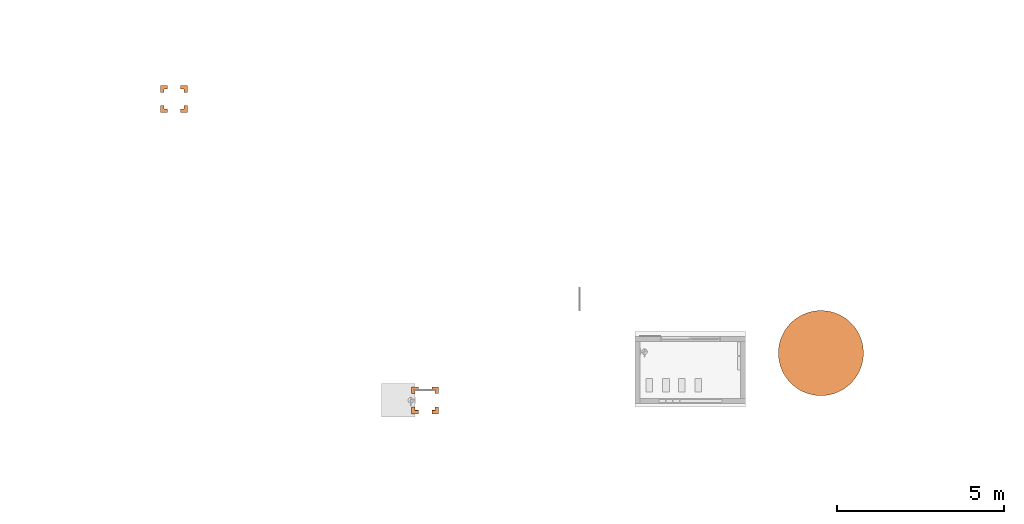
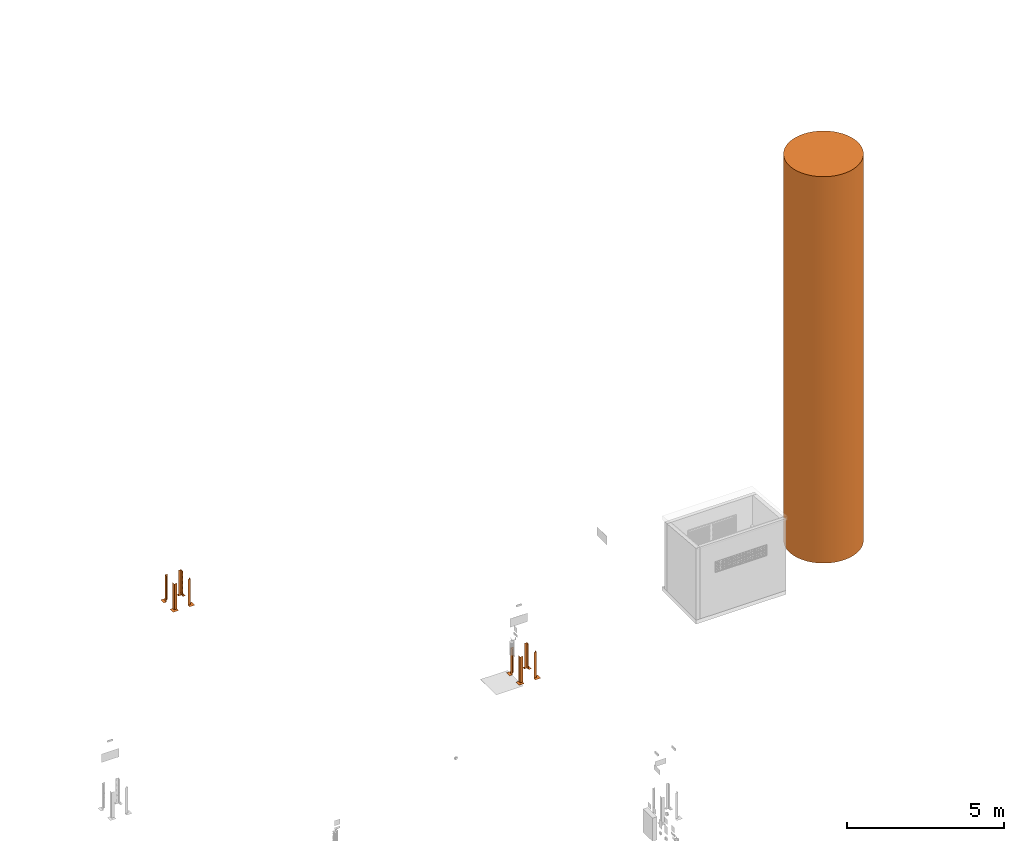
# One storey, part 23 of 119: 9 proxies.
"""IFC2X3 building model written with IfcOpenShell, lengths in metres."""

import ifcopenshell
import ifcopenshell.guid

model = None  # the IFC model being written
_history = None  # IfcOwnerHistory: only IFC2X3 demands one
_inside = {}  # id of a spatial element -> (the spatial element, [elements in it])
_under = {}  # id of a project, library or spatial element -> (it, [spatial elements below it])
_declared = {}  # id of a project -> (the project, [libraries it declares])
_typed = {}  # id of a type object -> (the type object, [elements of that type])
_made_of = {}  # id of a material, layer set ... -> (it, [elements and type objects made of it])


def new_model(schema):
    """Start an empty IFC model of exactly this schema.

    Asked for "IFC4X3", IfcOpenShell would pick the latest addendum, in which some entities
    have other attributes; the version numbers below select the first issue.
    IFC2X3 requires an IfcOwnerHistory on every rooted entity: one is made here for all.
    """
    global model, _history
    if schema == "IFC4X3":
        model = ifcopenshell.file(schema_version=(4, 3, 0, 0))
    else:
        model = ifcopenshell.file(schema=schema)
    _inside.clear()
    _under.clear()
    _declared.clear()
    _typed.clear()
    _made_of.clear()
    _history = None
    if model.schema == "IFC2X3":
        org = make("IfcOrganization", Name="unknown")
        user = make(
            "IfcPersonAndOrganization",
            ThePerson=make("IfcPerson", FamilyName="unknown"),
            TheOrganization=org,
        )
        app = make(
            "IfcApplication",
            ApplicationDeveloper=org,
            Version="unknown",
            ApplicationFullName="unknown",
            ApplicationIdentifier="unknown",
        )
        _history = make(
            "IfcOwnerHistory",
            OwningUser=user,
            OwningApplication=app,
            ChangeAction="ADDED",
            CreationDate=0,
        )
    return model


def make(cls, **values):
    """One entity of the class cls with the attributes given. An attribute that is None is left unset."""
    return model.create_entity(
        cls, **{name: value for name, value in values.items() if value is not None}
    )


def entity(cls, *values):
    """Any entity or typed value of the class cls, its attributes in the order of the schema. None: left unset."""
    e = model.create_entity(cls)
    for i, value in enumerate(values):
        if value is not None:
            e[i] = value
    return e


def rooted(cls, **values):
    """An entity with a GlobalId (a new one), such as an element, a storey or a relation."""
    return make(cls, GlobalId=ifcopenshell.guid.new(), OwnerHistory=_history, **values)


def si_unit(unit_type, name, prefix=None):
    """IfcSIUnit, for example si_unit("LENGTHUNIT", "METRE", prefix="MILLI")."""
    return make("IfcSIUnit", UnitType=unit_type, Prefix=prefix, Name=name)


def converted_unit(unit_type, name, factor, base, dimensions=None, offset=None):
    """IfcConversionBasedUnit, such as the inch: factor (a typed value) times the base unit."""
    return make(
        "IfcConversionBasedUnit"
        if offset is None
        else "IfcConversionBasedUnitWithOffset",
        ConversionOffset=offset,
        Dimensions=None
        if dimensions is None
        else entity("IfcDimensionalExponents", *dimensions),
        UnitType=unit_type,
        Name=name,
        ConversionFactor=make(
            "IfcMeasureWithUnit", ValueComponent=factor, UnitComponent=base
        ),
    )


def derived_unit(unit_type, elements):
    """IfcDerivedUnit: a product of units, each with its exponent."""
    return make(
        "IfcDerivedUnit",
        Elements=[
            make("IfcDerivedUnitElement", Unit=unit, Exponent=power)
            for unit, power in elements
        ],
        UnitType=unit_type,
    )


def assignment(units):
    """IfcUnitAssignment: the units of a project."""
    return None if units is None else make("IfcUnitAssignment", Units=units)


def point(xyz):
    """IfcCartesianPoint."""
    return None if xyz is None else make("IfcCartesianPoint", Coordinates=xyz)


def direction(xyz):
    """IfcDirection."""
    return None if xyz is None else make("IfcDirection", DirectionRatios=xyz)


def frame(location, z_axis=None, x_axis=None):
    """IfcAxis2Placement3D, a coordinate frame: its origin and axes. An axis left out is left unset."""
    return make(
        "IfcAxis2Placement3D",
        Location=point(location),
        Axis=direction(z_axis),
        RefDirection=direction(x_axis),
    )


def frame_2d(location, x_axis=None):
    """IfcAxis2Placement2D, a coordinate frame in the plane: its origin and x axis."""
    return make(
        "IfcAxis2Placement2D", Location=point(location), RefDirection=direction(x_axis)
    )


def origin():
    """The frame at (0, 0, 0) with its axes left unset."""
    return frame((0.0, 0.0, 0.0))


def place(relative_to, where):
    """IfcLocalPlacement: puts the frame where relative to a parent placement (None: the world)."""
    return make(
        "IfcLocalPlacement", PlacementRelTo=relative_to, RelativePlacement=where
    )


def context(
    kind, dimensions, precision=None, world=None, true_north=None, identifier=None
):
    """IfcGeometricRepresentationContext, for example the 3D "Model" context."""
    return make(
        "IfcGeometricRepresentationContext",
        ContextIdentifier=identifier,
        ContextType=kind,
        CoordinateSpaceDimension=dimensions,
        Precision=precision,
        WorldCoordinateSystem=world,
        TrueNorth=true_north,
    )


def subcontext(parent, identifier, kind, view, scale=None):
    """IfcGeometricRepresentationSubContext, for example "Body" below "Model"."""
    return make(
        "IfcGeometricRepresentationSubContext",
        ContextIdentifier=identifier,
        ContextType=kind,
        ParentContext=parent,
        TargetScale=scale,
        TargetView=view,
    )


def project(units=None, contexts=None):
    """IfcProject with its units and contexts."""
    return rooted(
        "IfcProject",
        Name="project",
        RepresentationContexts=contexts,
        UnitsInContext=assignment(units),
    )


def spatial(cls, under=None, at=None, **own):
    """A site, building, storey or space (cls), placed at a placement, below another one or the project."""
    s = rooted(cls, ObjectPlacement=at, **own)
    if under is not None:
        _under.setdefault(under.id(), (under, []))[1].append(s)
    return s


def profile(cls, at=None, kind="AREA", **sizes):
    """A parametric profile (cls). Its sizes go by their IFC names, for example OverallWidth=200.0."""
    return make(cls, ProfileType=kind, Position=at, **sizes)


def circle(**sizes):
    """IfcCircleProfileDef."""
    return profile("IfcCircleProfileDef", **sizes)


def extrude(swept, where, along, depth):
    """IfcExtrudedAreaSolid: the profile swept, set in the frame where, extruded along a direction by depth."""
    return make(
        "IfcExtrudedAreaSolid",
        SweptArea=swept,
        Position=where,
        ExtrudedDirection=direction(along),
        Depth=depth,
    )


def faces_of(points, faces, orient=None, outer=None):
    """IfcFace entities. A face is a list of loops; a loop is a list of indices into points, from 0.

    orient and outer hold one flag for each loop. By default every Orientation is true, the
    first loop of a face is its IfcFaceOuterBound and the others are IfcFaceBound.
    """
    made = []
    for i, loops in enumerate(faces):
        bounds = []
        for j, loop in enumerate(loops):
            is_outer = j == 0 if outer is None else outer[i][j]
            bounds.append(
                make(
                    "IfcFaceOuterBound" if is_outer else "IfcFaceBound",
                    Bound=make("IfcPolyLoop", Polygon=[points[k] for k in loop]),
                    Orientation=True if orient is None else orient[i][j],
                )
            )
        made.append(make("IfcFace", Bounds=bounds))
    return made


def faceted_brep(points, faces, orient=None, outer=None, voids=None):
    """IfcFacetedBrep: a solid bounded by flat faces; with voids (closed shells), ...WithVoids."""
    shared = [point(p) for p in points]
    hull = make("IfcClosedShell", CfsFaces=faces_of(shared, faces, orient, outer))
    if voids is None:
        return make("IfcFacetedBrep", Outer=hull)
    return make(
        "IfcFacetedBrepWithVoids",
        Outer=hull,
        Voids=[
            make(cls, CfsFaces=faces_of(shared, fs, o, b)) for cls, fs, o, b in voids
        ],
    )


def shape(context_of_items, identifier, shape_type, items):
    """IfcShapeRepresentation: the items that make up one representation, for example the "Body"."""
    return make(
        "IfcShapeRepresentation",
        ContextOfItems=context_of_items,
        RepresentationIdentifier=identifier,
        RepresentationType=shape_type,
        Items=items,
    )


def source(mapping_origin, context_of_items, identifier, shape_type, items):
    """IfcRepresentationMap: a shape defined once, which mapped items show again and again."""
    return make(
        "IfcRepresentationMap",
        MappingOrigin=mapping_origin,
        MappedRepresentation=shape(context_of_items, identifier, shape_type, items),
    )


def transform(
    local_origin,
    x_axis=None,
    y_axis=None,
    z_axis=None,
    scale=None,
    scale2=None,
    scale3=None,
    uniform=True,
):
    """IfcCartesianTransformationOperator3D, or its non-uniform kind. x_axis, y_axis, z_axis: its Axis1, 2, 3."""
    if uniform:
        return make(
            "IfcCartesianTransformationOperator3D",
            Axis1=direction(x_axis),
            Axis2=direction(y_axis),
            LocalOrigin=point(local_origin),
            Scale=scale,
            Axis3=direction(z_axis),
        )
    return make(
        "IfcCartesianTransformationOperator3DnonUniform",
        Axis1=direction(x_axis),
        Axis2=direction(y_axis),
        LocalOrigin=point(local_origin),
        Scale=scale,
        Axis3=direction(z_axis),
        Scale2=scale2,
        Scale3=scale3,
    )


def mapped(mapping_source, mapping_target):
    """IfcMappedItem: shows the shape of a source again, moved by a transform."""
    return make(
        "IfcMappedItem", MappingSource=mapping_source, MappingTarget=mapping_target
    )


def material(Name=None, Category=None):
    """IfcMaterial."""
    return make("IfcMaterial", Name=Name, Category=Category)


def material_list(materials):
    """IfcMaterialList."""
    return make("IfcMaterialList", Materials=materials)


def made_of(thing, what):
    """Note that an element or type object is made of a material, layer set ...; save() writes the relation."""
    if what is not None:
        _made_of.setdefault(what.id(), (what, []))[1].append(thing)
    return thing


def type_object(cls, material=None, **own):
    """A type object (cls), such as IfcWallType, which elements share."""
    return made_of(rooted(cls, **own), material)


def type_shapes(of_type, sources):
    """Give a type object the sources (RepresentationMaps) that its elements show as mapped items."""
    of_type.RepresentationMaps = sources


def element(
    cls,
    number,
    at=None,
    inside=None,
    cuts=None,
    type_object=None,
    material=None,
    context=None,
    identifier="Body",
    shape_type=None,
    held_by="IfcProductDefinitionShape",
    body=None,
    shapes=None,
    **own,
):
    """One element of the class cls, such as IfcWall. Its Tag is "e" and its number.

    at: its placement. inside: the storey or other place that contains it. cuts: it is an
    opening in that element (IfcRelVoidsElement). A single representation is given by context,
    identifier, shape_type and body (its items); several are given by shapes. held_by: the class
    of the entity that holds the representations. save() writes the other relations.
    """
    e = rooted(cls, Tag="e%d" % number, ObjectPlacement=at, **own)
    if body is not None:
        shapes = [shape(context, identifier, shape_type, body)]
    if shapes is not None:
        e.Representation = make(held_by, Representations=shapes)
    if inside is not None:
        _inside.setdefault(inside.id(), (inside, []))[1].append(e)
    if cuts is not None:
        rooted(
            "IfcRelVoidsElement", RelatingBuildingElement=cuts, RelatedOpeningElement=e
        )
    if type_object is not None:
        _typed.setdefault(type_object.id(), (type_object, []))[1].append(e)
    return made_of(e, material)


def aggregate(whole, parts):
    """IfcRelAggregates: a whole, such as a stair, and the parts it consists of."""
    return rooted("IfcRelAggregates", RelatingObject=whole, RelatedObjects=parts)


def save(model, path):
    """Write the relations noted so far, then the file.

    IfcRelAggregates (storeys below a building ...), IfcRelContainedInSpatialStructure (elements
    in a storey), IfcRelDefinesByType, IfcRelAssociatesMaterial and IfcRelDeclares: one each for
    every whole, place, type object, material and project.
    """
    for whole, parts in _under.values():
        aggregate(whole, parts)
    for where, things in _inside.values():
        rooted(
            "IfcRelContainedInSpatialStructure",
            RelatedElements=things,
            RelatingStructure=where,
        )
    for kind, things in _typed.values():
        rooted("IfcRelDefinesByType", RelatedObjects=things, RelatingType=kind)
    for what, things in _made_of.values():
        rooted("IfcRelAssociatesMaterial", RelatedObjects=things, RelatingMaterial=what)
    for by, libraries in _declared.values():
        rooted("IfcRelDeclares", RelatingContext=by, RelatedDefinitions=libraries)
    model.write(path)


model = new_model("IFC2X3")

# Units and contexts
model_context = context("Model", 3, precision=1e-05, world=origin(), true_north=direction((6.12303176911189e-17, 1.0)))
body_context = subcontext(model_context, "Body", "Model", "MODEL_VIEW")
ifc_project = project(units=[si_unit("LENGTHUNIT", "METRE"), si_unit("AREAUNIT", "SQUARE_METRE"), si_unit("VOLUMEUNIT", "CUBIC_METRE"), converted_unit("PLANEANGLEUNIT", "DEGREE", entity("IfcRatioMeasure", 0.0174532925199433), si_unit("PLANEANGLEUNIT", "RADIAN"), dimensions=[0, 0, 0, 0, 0, 0, 0]), si_unit("MASSUNIT", "GRAM", prefix="KILO"), derived_unit("MASSDENSITYUNIT", [(si_unit("MASSUNIT", "GRAM", prefix="KILO"), 1), (si_unit("LENGTHUNIT", "METRE"), -3)]), derived_unit("MOMENTOFINERTIAUNIT", [(si_unit("LENGTHUNIT", "METRE"), 4)]), si_unit("TIMEUNIT", "SECOND"), si_unit("FREQUENCYUNIT", "HERTZ"), si_unit("THERMODYNAMICTEMPERATUREUNIT", "DEGREE_CELSIUS"), derived_unit("THERMALTRANSMITTANCEUNIT", [(si_unit("MASSUNIT", "GRAM", prefix="KILO"), 1), (si_unit("THERMODYNAMICTEMPERATUREUNIT", "KELVIN"), -1), (si_unit("TIMEUNIT", "SECOND"), -3)]), derived_unit("VOLUMETRICFLOWRATEUNIT", [(si_unit("LENGTHUNIT", "METRE"), 3), (si_unit("TIMEUNIT", "SECOND"), -1)]), si_unit("ELECTRICCURRENTUNIT", "AMPERE"), si_unit("ELECTRICVOLTAGEUNIT", "VOLT"), si_unit("POWERUNIT", "WATT"), si_unit("FORCEUNIT", "NEWTON", prefix="KILO"), si_unit("ILLUMINANCEUNIT", "LUX"), si_unit("LUMINOUSFLUXUNIT", "LUMEN"), si_unit("LUMINOUSINTENSITYUNIT", "CANDELA"), derived_unit("USERDEFINED", [(si_unit("MASSUNIT", "GRAM", prefix="KILO"), -1), (si_unit("LENGTHUNIT", "METRE"), -2), (si_unit("TIMEUNIT", "SECOND"), 3), (si_unit("LUMINOUSFLUXUNIT", "LUMEN"), 1)]), derived_unit("LINEARVELOCITYUNIT", [(si_unit("LENGTHUNIT", "METRE"), 1), (si_unit("TIMEUNIT", "SECOND"), -1)]), si_unit("PRESSUREUNIT", "PASCAL"), derived_unit("USERDEFINED", [(si_unit("LENGTHUNIT", "METRE"), -2), (si_unit("MASSUNIT", "GRAM", prefix="KILO"), 1), (si_unit("TIMEUNIT", "SECOND"), -2)]), derived_unit("LINEARFORCEUNIT", [(si_unit("MASSUNIT", "GRAM", prefix="KILO"), 1), (si_unit("LENGTHUNIT", "METRE"), 1), (si_unit("TIMEUNIT", "SECOND"), -2), (si_unit("LENGTHUNIT", "METRE"), -1)]), derived_unit("PLANARFORCEUNIT", [(si_unit("MASSUNIT", "GRAM", prefix="KILO"), 1), (si_unit("LENGTHUNIT", "METRE"), 1), (si_unit("TIMEUNIT", "SECOND"), -2), (si_unit("LENGTHUNIT", "METRE"), -2)])], contexts=[model_context])

# Site, building, storey
site_placement = place(None, origin())
site = spatial("IfcSite", under=ifc_project, at=site_placement, Name="Default", CompositionType="ELEMENT")
building_placement = place(site_placement, origin())
building = spatial("IfcBuilding", under=site, at=building_placement, CompositionType="ELEMENT")
storey_placement = place(building_placement, origin())
storey = spatial("IfcBuildingStorey", under=building, at=storey_placement, Name="PAV. 01 - TÉRREO", CompositionType="ELEMENT", Elevation=0.0)

# Proxies
ifc_material_1 = material(Name="Material_reservatório")
building_element_proxy_type_1 = type_object("IfcBuildingElementProxyType", Name="CAIXA D'ÁGUA TIPO TUBULAR1:85m3 - TBL - 15,00m", PredefinedType="NOTDEFINED", material=ifc_material_1)
shared_shape_1 = source(origin(), body_context, "Body", "SweptSolid", [
    extrude(circle(Radius=1.27, at=frame_2d((-2.92658148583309e-18, -2.05174160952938e-15), x_axis=(1.0, 0.0))), origin(), (0.0, 0.0, 1.0), 15.0),
])
type_shapes(building_element_proxy_type_1, [shared_shape_1])
proxy_1_placement = place(storey_placement, frame((92.9952267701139, 33.3403397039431, 0.25)))
element("IfcBuildingElementProxy", 1, at=proxy_1_placement, inside=storey, type_object=building_element_proxy_type_1, material=ifc_material_1, Name="CAIXA D'ÁGUA TIPO TUBULAR1:85m3 - TBL - 15,00m", ObjectType="CAIXA D'ÁGUA TIPO TUBULAR1:85m3 - TBL - 15,00m", context=body_context, shape_type="MappedRepresentation", body=[
    mapped(shared_shape_1, transform((0.0, 0.0, 0.0), scale=1.0)),
])
ifc_material_2 = material(Name="Plastico Amarelo")
ifc_material_3 = material(Name="Plastico Preto")
ifc_material_4 = material(Name="O_01_amarelo")
ifc_material_5 = material(Name="O_01_Preto")
ifc_material_list_1 = material_list([ifc_material_2, ifc_material_3, ifc_material_4, ifc_material_5])
ifc_material_list_2 = material_list([ifc_material_4, ifc_material_5, ifc_material_2])
building_element_proxy_type_2 = type_object("IfcBuildingElementProxyType", Name="Indicação de Obstáculos:Indicador - O01 - Amarelo (ambiente interno)", PredefinedType="NOTDEFINED", material=ifc_material_list_2)
shared_shape_2 = source(origin(), body_context, "Body", "Brep", [
    faceted_brep([(0.1, -0.0499999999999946, 0.000999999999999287), (0.0499999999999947, -0.1, 0.000999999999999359), (0.1, -0.1, 0.000999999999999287), (0.1, -0.0499999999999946, 0.0), (0.1, -0.1, 0.0), (0.0499999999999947, -0.1, 0.0)], [[[0, 1, 2]], [[3, 4, 5]], [[0, 2, 4, 3]], [[1, 0, 3, 5]], [[2, 1, 5, 4]]]),
    faceted_brep([(0.100000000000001, 0.0, 0.000999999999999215), (0.0, -0.1, 0.000999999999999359), (0.049999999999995, -0.1, 0.000999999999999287), (0.100000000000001, -0.0499999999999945, 0.000999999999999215), (0.100000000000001, 0.0, 0.0), (0.100000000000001, -0.0499999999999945, 0.0), (0.049999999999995, -0.1, 0.0), (0.0, -0.1, 0.0)], [[[0, 1, 2, 3]], [[4, 5, 6, 7]], [[0, 3, 5, 4]], [[1, 0, 4, 7]], [[3, 2, 6, 5]], [[2, 1, 7, 6]]]),
    faceted_brep([(0.049999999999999, 0.0, 0.000999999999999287), (-0.0500000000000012, -0.0999999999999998, 0.000999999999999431), (0.0, -0.1, 0.000999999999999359), (0.0999999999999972, 0.0, 0.000999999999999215), (0.049999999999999, 0.0, 0.0), (0.0999999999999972, 0.0, 0.0), (0.0, -0.1, 0.0), (-0.0500000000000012, -0.0999999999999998, 0.0)], [[[0, 1, 2, 3]], [[4, 5, 6, 7]], [[1, 0, 4, 7]], [[3, 2, 6, 5]], [[2, 1, 7, 6]], [[0, 3, 5, 4]]]),
    faceted_brep([(-0.0999999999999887, -0.0999999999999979, 0.000999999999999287), (-0.0499999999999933, -0.0999999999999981, 0.000999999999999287), (0.0499999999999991, 0.0, 0.000999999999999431), (0.0, 0.0, 0.000999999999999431), (-0.0999999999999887, -0.0999999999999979, 0.0), (0.0, 0.0, 0.0), (0.049999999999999, 0.0, 0.0), (-0.0499999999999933, -0.0999999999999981, 0.0)], [[[0, 1, 2, 3]], [[4, 5, 6, 7]], [[0, 3, 5, 4]], [[2, 1, 7, 6]], [[3, 2, 6, 5]], [[1, 0, 4, 7]]]),
    faceted_brep([(0.0, 0.0500000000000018, 0.000999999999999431), (-0.0999999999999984, -0.0500000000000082, 0.000999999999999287), (-0.099999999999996, -0.100000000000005, 0.000999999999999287), (0.0, 0.0, 0.000999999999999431), (0.0, 0.0500000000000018, 0.0), (0.0, 0.0, 0.0), (-0.099999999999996, -0.100000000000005, 0.0), (-0.0999999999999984, -0.0500000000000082, 0.0)], [[[0, 1, 2, 3]], [[4, 5, 6, 7]], [[0, 3, 5, 4]], [[1, 0, 4, 7]], [[2, 1, 7, 6]], [[3, 2, 6, 5]]]),
    faceted_brep([(-0.0999999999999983, 0.0499999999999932, 0.000999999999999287), (-0.0499999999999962, 0.1, 0.000999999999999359), (-0.100000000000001, 0.1, 0.000999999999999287), (-0.0999999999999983, 0.0499999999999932, 0.0), (-0.100000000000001, 0.1, 0.0), (-0.0499999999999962, 0.1, 0.0)], [[[0, 1, 2]], [[3, 4, 5]], [[0, 2, 4, 3]], [[1, 0, 3, 5]], [[2, 1, 5, 4]]]),
    faceted_brep([(-0.0999999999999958, 0.0, 0.000999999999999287), (0.0, 0.1, 0.000999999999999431), (-0.0499999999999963, 0.1, 0.000999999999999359), (-0.0999999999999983, 0.0499999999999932, 0.000999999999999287), (-0.0999999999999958, 0.0, 0.0), (-0.0999999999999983, 0.0499999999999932, 0.0), (-0.0499999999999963, 0.1, 0.0), (0.0, 0.1, 0.0)], [[[0, 1, 2, 3]], [[4, 5, 6, 7]], [[0, 3, 5, 4]], [[1, 0, 4, 7]], [[3, 2, 6, 5]], [[2, 1, 7, 6]]]),
    faceted_brep([(0.0, 0.050000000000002, 0.000999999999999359), (0.0, 0.1, 0.000999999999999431), (-0.0999999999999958, 0.0, 0.000999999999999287), (-0.0999999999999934, -0.0500000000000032, 0.000999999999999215), (0.0, 0.0500000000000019, 0.0), (-0.0999999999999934, -0.0500000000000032, 0.0), (-0.0999999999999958, 0.0, 0.0), (0.0, 0.1, 0.0)], [[[0, 1, 2, 3]], [[4, 5, 6, 7]], [[1, 0, 4, 7]], [[2, 1, 7, 6]], [[0, 3, 5, 4]], [[3, 2, 6, 5]]]),
    faceted_brep([(0.00200000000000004, 0.1, 1.0), (0.002, 0.00199999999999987, 0.902000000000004), (0.002, 0.00199999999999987, 0.802000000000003), (0.00200000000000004, 0.1, 0.900000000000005), (0.0, 0.1, 0.900000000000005), (0.0, 0.0, 0.800000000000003), (0.0, 0.0, 0.900000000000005), (0.0, 0.1, 1.0)], [[[0, 1, 2, 3]], [[4, 5, 6, 7]], [[4, 3, 2, 5]], [[1, 6, 5, 2]], [[6, 1, 0, 7]], [[3, 4, 7, 0]]]),
    faceted_brep([(0.00200000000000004, 0.1, 0.800000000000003), (0.002, 0.00199999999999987, 0.702000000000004), (0.002, 0.00199999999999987, 0.602000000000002), (0.00200000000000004, 0.1, 0.700000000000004), (0.0, 0.1, 0.700000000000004), (0.0, 0.0, 0.600000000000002), (0.0, 0.0, 0.700000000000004), (0.0, 0.1, 0.800000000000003)], [[[0, 1, 2, 3]], [[4, 5, 6, 7]], [[4, 3, 2, 5]], [[1, 6, 5, 2]], [[6, 1, 0, 7]], [[3, 4, 7, 0]]]),
    faceted_brep([(0.00200000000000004, 0.1, 0.600000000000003), (0.002, 0.00199999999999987, 0.502000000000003), (0.002, 0.00199999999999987, 0.402000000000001), (0.00200000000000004, 0.1, 0.500000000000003), (0.0, 0.1, 0.500000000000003), (0.0, 0.0, 0.400000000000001), (0.0, 0.0, 0.500000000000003), (0.0, 0.1, 0.600000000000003)], [[[0, 1, 2, 3]], [[4, 5, 6, 7]], [[4, 3, 2, 5]], [[1, 6, 5, 2]], [[6, 1, 0, 7]], [[3, 4, 7, 0]]]),
    faceted_brep([(0.00200000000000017, 0.0999999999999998, 0.400000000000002), (0.00200000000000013, 0.0019999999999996, 0.302000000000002), (0.00200000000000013, 0.0019999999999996, 0.202), (0.00200000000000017, 0.0999999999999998, 0.300000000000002), (0.0, 0.0999999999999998, 0.300000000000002), (0.0, 0.0, 0.2), (0.0, 0.0, 0.300000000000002), (0.0, 0.0999999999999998, 0.400000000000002)], [[[0, 1, 2, 3]], [[4, 5, 6, 7]], [[4, 3, 2, 5]], [[1, 6, 5, 2]], [[6, 1, 0, 7]], [[3, 4, 7, 0]]]),
    faceted_brep([(0.000500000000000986, 0.1, 0.900000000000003), (0.000500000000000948, 0.000499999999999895, 0.800500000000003), (0.000500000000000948, 0.00049999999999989, 0.700500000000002), (0.000500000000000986, 0.1, 0.800000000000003), (0.0, 0.1, 0.800000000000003), (0.0, 0.0, 0.700000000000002), (0.0, 0.0, 0.800000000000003), (0.0, 0.1, 0.900000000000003)], [[[0, 1, 2, 3]], [[4, 5, 6, 7]], [[4, 3, 2, 5]], [[1, 6, 5, 2]], [[6, 1, 0, 7]], [[3, 4, 7, 0]]]),
    faceted_brep([(0.000500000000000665, 0.1, 0.700000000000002), (0.000500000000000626, 0.000499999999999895, 0.600500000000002), (0.000500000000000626, 0.00049999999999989, 0.500500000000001), (0.000500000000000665, 0.1, 0.600000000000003), (0.0, 0.1, 0.600000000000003), (0.0, 0.0, 0.500000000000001), (0.0, 0.0, 0.600000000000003), (0.0, 0.1, 0.700000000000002)], [[[0, 1, 2, 3]], [[4, 5, 6, 7]], [[4, 3, 2, 5]], [[1, 6, 5, 2]], [[6, 1, 0, 7]], [[3, 4, 7, 0]]]),
    faceted_brep([(0.000500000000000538, 0.0999999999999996, 0.500000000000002), (0.000500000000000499, 0.000499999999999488, 0.400500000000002), (0.000500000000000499, 0.000499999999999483, 0.3005), (0.000500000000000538, 0.0999999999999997, 0.400000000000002), (0.0, 0.0999999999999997, 0.400000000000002), (0.0, 0.0, 0.3), (0.0, 0.0, 0.400000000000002), (0.0, 0.0999999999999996, 0.500000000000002)], [[[0, 1, 2, 3]], [[4, 5, 6, 7]], [[4, 3, 2, 5]], [[1, 6, 5, 2]], [[6, 1, 0, 7]], [[3, 4, 7, 0]]]),
    faceted_brep([(0.00499999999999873, 0.00499999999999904, 1.0), (0.00499999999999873, 0.00499999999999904, 0.904999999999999), (0.00499999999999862, 0.0999999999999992, 1.0), (0.0, 0.0, 0.899999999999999), (0.0, 0.0, 1.0), (0.0, 0.0999999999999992, 1.0)], [[[0, 1, 2]], [[3, 4, 5]], [[4, 0, 2, 5]], [[5, 2, 1, 3]], [[0, 4, 3, 1]]]),
    faceted_brep([(0.00499999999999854, 0.00499999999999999, 1.0), (0.0999999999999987, 0.00499999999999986, 1.0), (0.00499999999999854, 0.00499999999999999, 0.904999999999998), (0.0, 0.0, 0.899999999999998), (0.0999999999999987, 0.0, 1.0), (0.0, 0.0, 1.0)], [[[0, 1, 2]], [[3, 4, 5]], [[5, 4, 1, 0]], [[4, 3, 2, 1]], [[0, 2, 3, 5]]]),
    faceted_brep([(0.0999999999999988, 0.000499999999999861, 0.900000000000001), (0.0999999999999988, 0.000499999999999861, 0.800000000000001), (0.000499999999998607, 0.000499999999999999, 0.7005), (0.000499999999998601, 0.000499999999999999, 0.800500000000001), (0.0999999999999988, 0.0, 0.800000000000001), (0.0999999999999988, 0.0, 0.900000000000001), (0.0, 0.0, 0.800000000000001), (0.0, 0.0, 0.7)], [[[0, 1, 2, 3]], [[4, 5, 6, 7]], [[4, 7, 2, 1]], [[3, 2, 7, 6]], [[6, 5, 0, 3]], [[1, 0, 5, 4]]]),
    faceted_brep([(0.0999999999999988, 0.000499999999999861, 0.700000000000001), (0.0999999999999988, 0.000499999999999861, 0.600000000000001), (0.000499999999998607, 0.000499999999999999, 0.5005), (0.000499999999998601, 0.000499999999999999, 0.600500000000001), (0.0999999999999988, 0.0, 0.600000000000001), (0.0999999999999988, 0.0, 0.700000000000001), (0.0, 0.0, 0.600000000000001), (0.0, 0.0, 0.5)], [[[0, 1, 2, 3]], [[4, 5, 6, 7]], [[4, 7, 2, 1]], [[3, 2, 7, 6]], [[6, 5, 0, 3]], [[1, 0, 5, 4]]]),
    faceted_brep([(0.0999999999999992, 0.000499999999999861, 0.500000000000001), (0.0999999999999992, 0.000499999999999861, 0.400000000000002), (0.000499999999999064, 0.000499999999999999, 0.3005), (0.000499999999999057, 0.000499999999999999, 0.400500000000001), (0.0999999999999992, 0.0, 0.400000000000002), (0.0999999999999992, 0.0, 0.500000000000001), (0.0, 0.0, 0.400000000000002), (0.0, 0.0, 0.3)], [[[0, 1, 2, 3]], [[4, 5, 6, 7]], [[4, 7, 2, 1]], [[3, 2, 7, 6]], [[6, 5, 0, 3]], [[1, 0, 5, 4]]]),
    faceted_brep([(0.0999999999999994, 0.00199999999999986, 1.0), (0.0999999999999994, 0.00199999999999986, 0.900000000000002), (0.00199999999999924, 0.002, 0.802), (0.00199999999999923, 0.002, 0.902000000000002), (0.0999999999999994, 0.0, 0.900000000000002), (0.0999999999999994, 0.0, 1.0), (0.0, 0.0, 0.900000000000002), (0.0, 0.0, 0.8)], [[[0, 1, 2, 3]], [[4, 5, 6, 7]], [[4, 7, 2, 1]], [[3, 2, 7, 6]], [[6, 5, 0, 3]], [[1, 0, 5, 4]]]),
    faceted_brep([(0.0999999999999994, 0.00199999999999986, 0.800000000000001), (0.0999999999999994, 0.00199999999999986, 0.700000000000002), (0.00199999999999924, 0.002, 0.602), (0.00199999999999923, 0.002, 0.702000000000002), (0.0999999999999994, 0.0, 0.700000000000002), (0.0999999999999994, 0.0, 0.800000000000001), (0.0, 0.0, 0.700000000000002), (0.0, 0.0, 0.6)], [[[0, 1, 2, 3]], [[4, 5, 6, 7]], [[4, 7, 2, 1]], [[3, 2, 7, 6]], [[6, 5, 0, 3]], [[1, 0, 5, 4]]]),
    faceted_brep([(0.0999999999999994, 0.00199999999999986, 0.600000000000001), (0.0999999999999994, 0.00199999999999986, 0.500000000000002), (0.00199999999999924, 0.002, 0.402), (0.00199999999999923, 0.002, 0.502000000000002), (0.0999999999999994, 0.0, 0.500000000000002), (0.0999999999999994, 0.0, 0.600000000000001), (0.0, 0.0, 0.500000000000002), (0.0, 0.0, 0.4)], [[[0, 1, 2, 3]], [[4, 5, 6, 7]], [[4, 7, 2, 1]], [[3, 2, 7, 6]], [[6, 5, 0, 3]], [[1, 0, 5, 4]]]),
    faceted_brep([(0.0999999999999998, 0.00199999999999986, 0.400000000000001), (0.0999999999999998, 0.00199999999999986, 0.300000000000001), (0.00199999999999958, 0.002, 0.202), (0.00199999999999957, 0.002, 0.302000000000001), (0.0999999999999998, 0.0, 0.300000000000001), (0.0999999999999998, 0.0, 0.400000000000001), (0.0, 0.0, 0.300000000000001), (0.0, 0.0, 0.2)], [[[0, 1, 2, 3]], [[4, 5, 6, 7]], [[4, 7, 2, 1]], [[3, 2, 7, 6]], [[6, 5, 0, 3]], [[1, 0, 5, 4]]]),
    faceted_brep([(0.000500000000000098, 0.1, 0.300000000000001), (0.000500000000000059, 0.000499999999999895, 0.200500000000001), (0.000500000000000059, 0.00049999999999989, 0.1005), (0.000500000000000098, 0.1, 0.200000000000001), (0.0, 0.1, 0.200000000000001), (0.0, 0.0, 0.0999999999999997), (0.0, 0.0, 0.200000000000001), (0.0, 0.1, 0.300000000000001)], [[[0, 1, 2, 3]], [[4, 5, 6, 7]], [[4, 3, 2, 5]], [[1, 6, 5, 2]], [[6, 1, 0, 7]], [[3, 4, 7, 0]]]),
    faceted_brep([(0.00200000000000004, 0.1, 0.200000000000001), (0.002, 0.00199999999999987, 0.102000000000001), (0.002, 0.00199999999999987, 0.00199999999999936), (0.00200000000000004, 0.1, 0.100000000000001), (0.0, 0.1, 0.100000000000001), (0.0, 0.0, 0.0), (0.0, 0.0, 0.100000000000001), (0.0, 0.1, 0.200000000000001)], [[[0, 1, 2, 3]], [[4, 5, 6, 7]], [[4, 3, 2, 5]], [[1, 6, 5, 2]], [[6, 1, 0, 7]], [[3, 4, 7, 0]]]),
    faceted_brep([(0.000500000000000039, 0.1, 0.100000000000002), (0.0005, 0.000499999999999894, 0.000499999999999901), (0.0005, 0.000499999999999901, 0.0), (0.000500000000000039, 0.1, 0.0), (0.0, 0.0, 0.0), (0.0, 0.1, 0.100000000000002), (0.0, 0.1, 0.0)], [[[0, 1, 2, 3]], [[4, 5, 6]], [[3, 6, 5, 0]], [[6, 3, 2, 4]], [[4, 1, 0, 5]], [[1, 4, 2]]]),
    faceted_brep([(0.0999999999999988, 0.000499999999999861, 0.300000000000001), (0.0999999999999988, 0.000499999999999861, 0.200000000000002), (0.000499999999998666, 0.000499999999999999, 0.1005), (0.00049999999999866, 0.000499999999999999, 0.200500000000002), (0.0999999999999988, 0.0, 0.200000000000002), (0.0999999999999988, 0.0, 0.300000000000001), (0.0, 0.0, 0.200000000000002), (0.0, 0.0, 0.1)], [[[0, 1, 2, 3]], [[4, 5, 6, 7]], [[4, 7, 2, 1]], [[3, 2, 7, 6]], [[6, 5, 0, 3]], [[1, 0, 5, 4]]]),
    faceted_brep([(0.0999999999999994, 0.00199999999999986, 0.200000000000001), (0.0999999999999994, 0.00199999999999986, 0.100000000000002), (0.00199999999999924, 0.002, 0.0019999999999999), (0.00199999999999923, 0.002, 0.102000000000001), (0.0999999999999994, 0.0, 0.100000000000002), (0.0999999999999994, 0.0, 0.200000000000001), (0.0, 0.0, 0.100000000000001), (0.0, 0.0, 0.0)], [[[0, 1, 2, 3]], [[4, 5, 6, 7]], [[4, 7, 2, 1]], [[3, 2, 7, 6]], [[6, 5, 0, 3]], [[1, 0, 5, 4]]]),
    faceted_brep([(0.1, 0.000499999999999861, 0.100000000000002), (0.1, 0.000499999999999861, 0.0), (0.000499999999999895, 0.000499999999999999, 0.0), (0.000499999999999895, 0.000499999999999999, 0.000499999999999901), (0.0, 0.0, 0.0), (0.1, 0.0, 0.0), (0.1, 0.0, 0.100000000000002)], [[[0, 1, 2, 3]], [[4, 5, 6]], [[1, 0, 6, 5]], [[5, 4, 2, 1]], [[4, 6, 0, 3]], [[3, 2, 4]]]),
])
type_shapes(building_element_proxy_type_2, [shared_shape_2])
proxy_2_placement = place(storey_placement, frame((81.4737810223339, 31.6286451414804, 0.0), z_axis=(0.0, 0.0, 1.0), x_axis=(0.0, 1.0, 0.0)))
element("IfcBuildingElementProxy", 2, at=proxy_2_placement, inside=storey, type_object=building_element_proxy_type_2, material=ifc_material_list_1, Name="Indicação de Obstáculos:Indicador - O01 - Amarelo (ambiente interno)", ObjectType="Indicação de Obstáculos:Indicador - O01 - Amarelo (ambiente interno)", context=body_context, shape_type="MappedRepresentation", body=[
    mapped(shared_shape_2, transform((0.0, 0.0, 0.0), scale=1.0)),
])
ifc_material_list_3 = material_list([ifc_material_2, ifc_material_3, ifc_material_4, ifc_material_5])
proxy_3_placement = place(storey_placement, frame((80.8737817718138, 31.6286451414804, 0.0)))
element("IfcBuildingElementProxy", 3, at=proxy_3_placement, inside=storey, type_object=building_element_proxy_type_2, material=ifc_material_list_3, Name="Indicação de Obstáculos:Indicador - O01 - Amarelo (ambiente interno)", ObjectType="Indicação de Obstáculos:Indicador - O01 - Amarelo (ambiente interno)", context=body_context, shape_type="MappedRepresentation", body=[
    mapped(shared_shape_2, transform((0.0, 0.0, 0.0), scale=1.0)),
])
ifc_material_list_4 = material_list([ifc_material_2, ifc_material_3, ifc_material_4, ifc_material_5])
proxy_4_placement = place(storey_placement, frame((81.4737810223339, 32.2286443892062, 0.0), z_axis=(0.0, 0.0, 1.0), x_axis=(-1.0, 0.0, 0.0)))
element("IfcBuildingElementProxy", 4, at=proxy_4_placement, inside=storey, type_object=building_element_proxy_type_2, material=ifc_material_list_4, Name="Indicação de Obstáculos:Indicador - O01 - Amarelo (ambiente interno)", ObjectType="Indicação de Obstáculos:Indicador - O01 - Amarelo (ambiente interno)", context=body_context, shape_type="MappedRepresentation", body=[
    mapped(shared_shape_2, transform((0.0, 0.0, 0.0), scale=1.0)),
])
ifc_material_list_5 = material_list([ifc_material_2, ifc_material_3, ifc_material_4, ifc_material_5])
proxy_5_placement = place(storey_placement, frame((80.8737817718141, 32.2286443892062, 0.0), z_axis=(0.0, 0.0, 1.0), x_axis=(0.0, -1.0, 0.0)))
element("IfcBuildingElementProxy", 5, at=proxy_5_placement, inside=storey, type_object=building_element_proxy_type_2, material=ifc_material_list_5, Name="Indicação de Obstáculos:Indicador - O01 - Amarelo (ambiente interno)", ObjectType="Indicação de Obstáculos:Indicador - O01 - Amarelo (ambiente interno)", context=body_context, shape_type="MappedRepresentation", body=[
    mapped(shared_shape_2, transform((0.0, 0.0, 0.0), scale=1.0)),
])
ifc_material_list_6 = material_list([ifc_material_2, ifc_material_3, ifc_material_4, ifc_material_5])
proxy_6_placement = place(storey_placement, frame((73.9737903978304, 40.6286338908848, 0.0), z_axis=(0.0, 0.0, 1.0), x_axis=(0.0, 1.0, 0.0)))
element("IfcBuildingElementProxy", 6, at=proxy_6_placement, inside=storey, type_object=building_element_proxy_type_2, material=ifc_material_list_6, Name="Indicação de Obstáculos:Indicador - O01 - Amarelo (ambiente interno)", ObjectType="Indicação de Obstáculos:Indicador - O01 - Amarelo (ambiente interno)", context=body_context, shape_type="MappedRepresentation", body=[
    mapped(shared_shape_2, transform((0.0, 0.0, 0.0), scale=1.0)),
])
ifc_material_list_7 = material_list([ifc_material_2, ifc_material_3, ifc_material_4, ifc_material_5])
proxy_7_placement = place(storey_placement, frame((73.3737911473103, 40.6286338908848, 0.0)))
element("IfcBuildingElementProxy", 7, at=proxy_7_placement, inside=storey, type_object=building_element_proxy_type_2, material=ifc_material_list_7, Name="Indicação de Obstáculos:Indicador - O01 - Amarelo (ambiente interno)", ObjectType="Indicação de Obstáculos:Indicador - O01 - Amarelo (ambiente interno)", context=body_context, shape_type="MappedRepresentation", body=[
    mapped(shared_shape_2, transform((0.0, 0.0, 0.0), scale=1.0)),
])
ifc_material_list_8 = material_list([ifc_material_2, ifc_material_3, ifc_material_4, ifc_material_5])
proxy_8_placement = place(storey_placement, frame((73.9737903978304, 41.2286331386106, 0.0), z_axis=(0.0, 0.0, 1.0), x_axis=(-1.0, 0.0, 0.0)))
element("IfcBuildingElementProxy", 8, at=proxy_8_placement, inside=storey, type_object=building_element_proxy_type_2, material=ifc_material_list_8, Name="Indicação de Obstáculos:Indicador - O01 - Amarelo (ambiente interno)", ObjectType="Indicação de Obstáculos:Indicador - O01 - Amarelo (ambiente interno)", context=body_context, shape_type="MappedRepresentation", body=[
    mapped(shared_shape_2, transform((0.0, 0.0, 0.0), scale=1.0)),
])
ifc_material_list_9 = material_list([ifc_material_2, ifc_material_3, ifc_material_4, ifc_material_5])
proxy_9_placement = place(storey_placement, frame((73.3737911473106, 41.2286331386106, 0.0), z_axis=(0.0, 0.0, 1.0), x_axis=(0.0, -1.0, 0.0)))
element("IfcBuildingElementProxy", 9, at=proxy_9_placement, inside=storey, type_object=building_element_proxy_type_2, material=ifc_material_list_9, Name="Indicação de Obstáculos:Indicador - O01 - Amarelo (ambiente interno)", ObjectType="Indicação de Obstáculos:Indicador - O01 - Amarelo (ambiente interno)", context=body_context, shape_type="MappedRepresentation", body=[
    mapped(shared_shape_2, transform((0.0, 0.0, 0.0), scale=1.0)),
])

save(model, "model.ifc")
